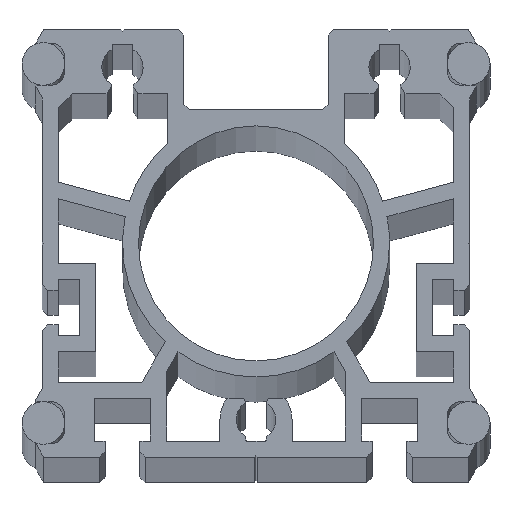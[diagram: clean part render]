
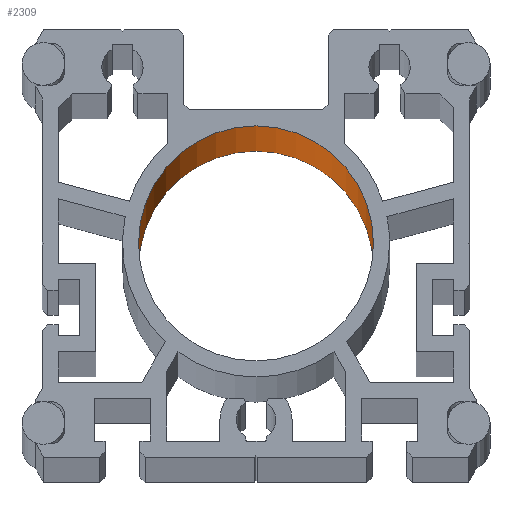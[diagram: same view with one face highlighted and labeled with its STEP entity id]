
A CAD part, top view. The second image highlights one B-rep face of the part: STEP entity #2309.
In plain terms, the highlighted cylindrical face has radius 22 mm (diameter 44 mm), a partial arc.
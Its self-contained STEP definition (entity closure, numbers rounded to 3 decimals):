
#31 = EDGE_CURVE ( 'NONE', #228, #234, #4675, .T. ) ;
#227 = VERTEX_POINT ( 'NONE', #5035 ) ;
#228 = VERTEX_POINT ( 'NONE', #5034 ) ;
#230 = EDGE_CURVE ( 'NONE', #227, #231, #5033, .T. ) ;
#231 = VERTEX_POINT ( 'NONE', #5010 ) ;
#234 = VERTEX_POINT ( 'NONE', #5315 ) ;
#1974 = ORIENTED_EDGE ( 'NONE', *, *, #31, .T. ) ;
#1975 = ORIENTED_EDGE ( 'NONE', *, *, #1991, .T. ) ;
#1991 = EDGE_CURVE ( 'NONE', #234, #231, #8040, .T. ) ;
#2309 = ADVANCED_FACE ( 'NONE', ( #3168 ), #3167, .F. ) ;
#2310 = EDGE_LOOP ( 'NONE', ( #2311, #2312, #1974, #1975 ) ) ;
#2311 = ORIENTED_EDGE ( 'NONE', *, *, #230, .F. ) ;
#2312 = ORIENTED_EDGE ( 'NONE', *, *, #8478, .F. ) ;
#3163 = DIRECTION ( 'NONE',  ( 1., 0., 0. ) ) ;
#3164 = DIRECTION ( 'NONE',  ( 0., 0., 1. ) ) ;
#3165 = CARTESIAN_POINT ( 'NONE',  ( 0., 40., -1349. ) ) ;
#3166 = AXIS2_PLACEMENT_3D ( 'NONE', #3165, #3164, #3163 ) ;
#3167 = CYLINDRICAL_SURFACE ( 'NONE', #3166, 22. ) ;
#3168 = FACE_OUTER_BOUND ( 'NONE', #2310, .T. ) ;
#4003 = DIRECTION ( 'NONE',  ( 1., 0., 0. ) ) ;
#4004 = DIRECTION ( 'NONE',  ( 0., 0., 1. ) ) ;
#4005 = CARTESIAN_POINT ( 'NONE',  ( 0., 40., -1349. ) ) ;
#4006 = AXIS2_PLACEMENT_3D ( 'NONE', #4005, #4004, #4003 ) ;
#4007 = CIRCLE ( 'NONE', #4006, 22. ) ;
#4672 = DIRECTION ( 'NONE',  ( 0., 0., 1. ) ) ;
#4673 = VECTOR ( 'NONE', #4672, 1000. ) ;
#4674 = CARTESIAN_POINT ( 'NONE',  ( 22., 40., -1349. ) ) ;
#4675 = LINE ( 'NONE', #4674, #4673 ) ;
#5010 = CARTESIAN_POINT ( 'NONE',  ( -22., 40., 1349. ) ) ;
#5011 = DIRECTION ( 'NONE',  ( 0., 0., 1. ) ) ;
#5012 = VECTOR ( 'NONE', #5011, 1000. ) ;
#5013 = CARTESIAN_POINT ( 'NONE',  ( -22., 40., -1349. ) ) ;
#5033 = LINE ( 'NONE', #5013, #5012 ) ;
#5034 = CARTESIAN_POINT ( 'NONE',  ( 22., 40., -1349. ) ) ;
#5035 = CARTESIAN_POINT ( 'NONE',  ( -22., 40., -1349. ) ) ;
#5315 = CARTESIAN_POINT ( 'NONE',  ( 22., 40., 1349. ) ) ;
#8036 = DIRECTION ( 'NONE',  ( 1., 0., 0. ) ) ;
#8037 = DIRECTION ( 'NONE',  ( 0., 0., 1. ) ) ;
#8038 = CARTESIAN_POINT ( 'NONE',  ( 0., 40., 1349. ) ) ;
#8039 = AXIS2_PLACEMENT_3D ( 'NONE', #8038, #8037, #8036 ) ;
#8040 = CIRCLE ( 'NONE', #8039, 22. ) ;
#8478 = EDGE_CURVE ( 'NONE', #228, #227, #4007, .T. ) ;
